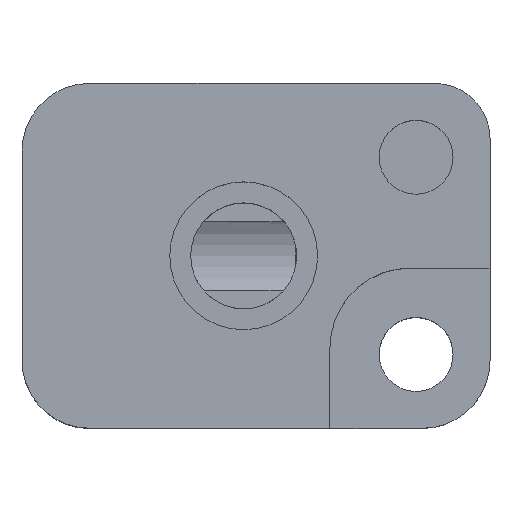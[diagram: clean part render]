
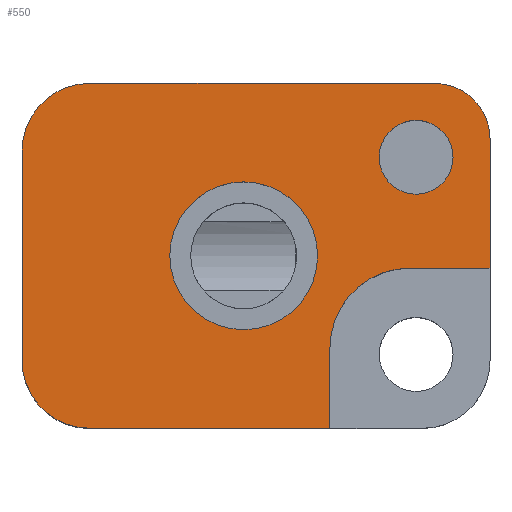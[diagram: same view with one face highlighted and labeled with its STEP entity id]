
A CAD part, top view. The second image highlights one B-rep face of the part: STEP entity #550.
In plain terms, the highlighted planar face has unit normal (0, 0, 1).
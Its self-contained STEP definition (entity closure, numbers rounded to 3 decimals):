
#25=FACE_BOUND('',#108,.T.);
#26=FACE_BOUND('',#109,.T.);
#70=FACE_OUTER_BOUND('',#107,.T.);
#107=EDGE_LOOP('',(#490,#491,#492,#493,#494,#495,#496,#497,#498,#499));
#108=EDGE_LOOP('',(#500));
#109=EDGE_LOOP('',(#501));
#120=LINE('',#813,#166);
#127=LINE('',#828,#173);
#130=LINE('',#836,#176);
#137=LINE('',#854,#183);
#141=LINE('',#866,#187);
#143=LINE('',#875,#189);
#166=VECTOR('',#647,10.);
#173=VECTOR('',#660,10.);
#176=VECTOR('',#669,10.);
#183=VECTOR('',#684,10.);
#187=VECTOR('',#696,10.);
#189=VECTOR('',#710,10.);
#206=CIRCLE('',#573,2.25);
#207=CIRCLE('',#576,2.75);
#209=CIRCLE('',#580,2.75);
#211=CIRCLE('',#584,3.25);
#215=CIRCLE('',#593,1.5);
#219=CIRCLE('',#603,3.);
#239=VERTEX_POINT('',#810);
#240=VERTEX_POINT('',#812);
#244=VERTEX_POINT('',#822);
#245=VERTEX_POINT('',#826);
#246=VERTEX_POINT('',#830);
#247=VERTEX_POINT('',#834);
#249=VERTEX_POINT('',#840);
#254=VERTEX_POINT('',#852);
#257=VERTEX_POINT('',#859);
#258=VERTEX_POINT('',#861);
#260=VERTEX_POINT('',#877);
#264=VERTEX_POINT('',#895);
#291=EDGE_CURVE('',#239,#240,#120,.T.);
#297=EDGE_CURVE('',#244,#239,#206,.T.);
#299=EDGE_CURVE('',#245,#244,#127,.T.);
#301=EDGE_CURVE('',#246,#245,#207,.T.);
#303=EDGE_CURVE('',#247,#246,#130,.T.);
#306=EDGE_CURVE('',#249,#247,#209,.T.);
#312=EDGE_CURVE('',#254,#249,#137,.T.);
#315=EDGE_CURVE('',#257,#258,#211,.T.);
#318=EDGE_CURVE('',#257,#240,#141,.T.);
#323=EDGE_CURVE('',#254,#258,#143,.T.);
#324=EDGE_CURVE('',#260,#260,#215,.T.);
#332=EDGE_CURVE('',#264,#264,#219,.T.);
#490=ORIENTED_EDGE('',*,*,#301,.F.);
#491=ORIENTED_EDGE('',*,*,#303,.F.);
#492=ORIENTED_EDGE('',*,*,#306,.F.);
#493=ORIENTED_EDGE('',*,*,#312,.F.);
#494=ORIENTED_EDGE('',*,*,#323,.T.);
#495=ORIENTED_EDGE('',*,*,#315,.F.);
#496=ORIENTED_EDGE('',*,*,#318,.T.);
#497=ORIENTED_EDGE('',*,*,#291,.F.);
#498=ORIENTED_EDGE('',*,*,#297,.F.);
#499=ORIENTED_EDGE('',*,*,#299,.F.);
#500=ORIENTED_EDGE('',*,*,#324,.T.);
#501=ORIENTED_EDGE('',*,*,#332,.T.);
#519=PLANE('',#620);
#550=ADVANCED_FACE('',(#70,#25,#26),#519,.F.);
#573=AXIS2_PLACEMENT_3D('',#824,#655,#656);
#576=AXIS2_PLACEMENT_3D('',#832,#664,#665);
#580=AXIS2_PLACEMENT_3D('',#842,#675,#676);
#584=AXIS2_PLACEMENT_3D('',#862,#690,#691);
#593=AXIS2_PLACEMENT_3D('',#878,#713,#714);
#603=AXIS2_PLACEMENT_3D('',#896,#737,#738);
#620=AXIS2_PLACEMENT_3D('',#1015,#779,#780);
#647=DIRECTION('',(0.,-1.,0.));
#655=DIRECTION('center_axis',(0.,0.,-1.));
#656=DIRECTION('ref_axis',(0.707,0.707,0.));
#660=DIRECTION('',(1.,0.,0.));
#664=DIRECTION('center_axis',(0.,0.,-1.));
#665=DIRECTION('ref_axis',(-0.707,0.707,0.));
#669=DIRECTION('',(0.,1.,0.));
#675=DIRECTION('center_axis',(0.,0.,-1.));
#676=DIRECTION('ref_axis',(-0.707,-0.707,0.));
#684=DIRECTION('',(-1.,0.,0.));
#690=DIRECTION('center_axis',(0.,0.,1.));
#691=DIRECTION('ref_axis',(-0.707,0.707,0.));
#696=DIRECTION('',(1.,0.,0.));
#710=DIRECTION('',(0.,1.,0.));
#713=DIRECTION('center_axis',(0.,0.,-1.));
#714=DIRECTION('ref_axis',(1.,0.,0.));
#737=DIRECTION('center_axis',(0.,0.,-1.));
#738=DIRECTION('ref_axis',(1.,0.,0.));
#779=DIRECTION('center_axis',(0.,0.,-1.));
#780=DIRECTION('ref_axis',(-1.,0.,0.));
#810=CARTESIAN_POINT('',(10.,4.75,-2.));
#812=CARTESIAN_POINT('',(10.,-0.5,-2.));
#813=CARTESIAN_POINT('',(10.,7.,-2.));
#822=CARTESIAN_POINT('',(7.75,7.,-2.));
#824=CARTESIAN_POINT('Origin',(7.75,4.75,-2.));
#826=CARTESIAN_POINT('',(-6.25,7.,-2.));
#828=CARTESIAN_POINT('',(-9.,7.,-2.));
#830=CARTESIAN_POINT('',(-9.,4.25,-2.));
#832=CARTESIAN_POINT('Origin',(-6.25,4.25,-2.));
#834=CARTESIAN_POINT('',(-9.,-4.25,-2.));
#836=CARTESIAN_POINT('',(-9.,-7.,-2.));
#840=CARTESIAN_POINT('',(-6.25,-7.,-2.));
#842=CARTESIAN_POINT('Origin',(-6.25,-4.25,-2.));
#852=CARTESIAN_POINT('',(3.5,-7.,-2.));
#854=CARTESIAN_POINT('',(10.,-7.,-2.));
#859=CARTESIAN_POINT('',(6.75,-0.5,-2.));
#861=CARTESIAN_POINT('',(3.5,-3.75,-2.));
#862=CARTESIAN_POINT('Origin',(6.75,-3.75,-2.));
#866=CARTESIAN_POINT('',(2.,-0.5,-2.));
#875=CARTESIAN_POINT('',(3.5,-3.5,-2.));
#877=CARTESIAN_POINT('',(5.5,4.,-2.));
#878=CARTESIAN_POINT('Origin',(7.,4.,-2.));
#895=CARTESIAN_POINT('',(-3.,0.,-2.));
#896=CARTESIAN_POINT('Origin',(0.,0.,-2.));
#1015=CARTESIAN_POINT('Origin',(0.5,0.,-2.));
